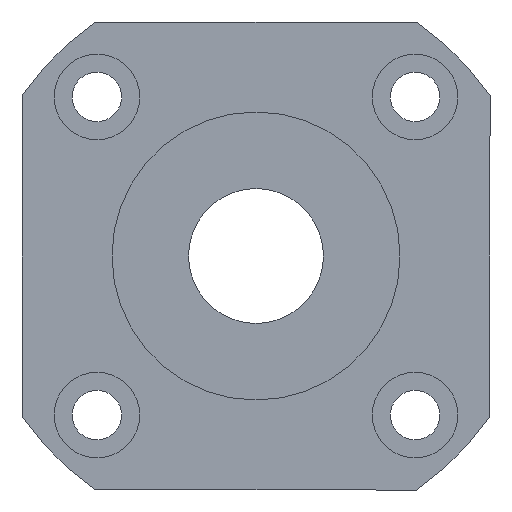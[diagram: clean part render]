
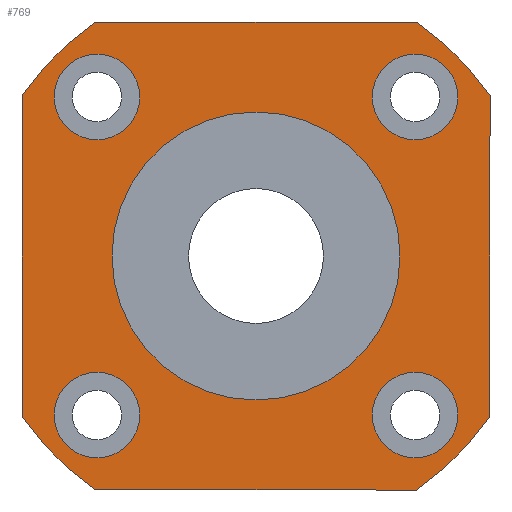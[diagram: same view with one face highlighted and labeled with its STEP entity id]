
A CAD part, left-side view. The second image highlights one B-rep face of the part: STEP entity #769.
In plain terms, the highlighted planar face has unit normal (-1, 0, 0).
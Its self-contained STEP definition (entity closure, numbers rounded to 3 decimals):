
#165=CARTESIAN_POINT('',(0.0,17.678,12.928));
#166=VERTEX_POINT('',#165);
#167=CARTESIAN_POINT('',(0.0,17.678,17.678));
#168=DIRECTION('',(1.0,0.0,0.0));
#169=DIRECTION('',(0.0,0.0,-1.0));
#170=AXIS2_PLACEMENT_3D('',#167,#168,#169);
#171=CIRCLE('',#170,4.75);
#172=EDGE_CURVE('',#166,#166,#171,.T.);
#233=CARTESIAN_POINT('',(0.0,12.928,-17.678));
#234=VERTEX_POINT('',#233);
#235=CARTESIAN_POINT('',(0.0,17.678,-17.678));
#236=DIRECTION('',(1.0,0.0,0.0));
#237=DIRECTION('',(0.0,-1.0,0.0));
#238=AXIS2_PLACEMENT_3D('',#235,#236,#237);
#239=CIRCLE('',#238,4.75);
#240=EDGE_CURVE('',#234,#234,#239,.T.);
#301=CARTESIAN_POINT('',(0.0,-17.678,-12.928));
#302=VERTEX_POINT('',#301);
#303=CARTESIAN_POINT('',(0.0,-17.678,-17.678));
#304=DIRECTION('',(1.0,0.0,0.0));
#305=DIRECTION('',(0.0,0.0,1.0));
#306=AXIS2_PLACEMENT_3D('',#303,#304,#305);
#307=CIRCLE('',#306,4.75);
#308=EDGE_CURVE('',#302,#302,#307,.T.);
#369=CARTESIAN_POINT('',(0.0,-12.928,17.678));
#370=VERTEX_POINT('',#369);
#371=CARTESIAN_POINT('',(0.0,-17.678,17.678));
#372=DIRECTION('',(1.0,0.0,0.0));
#373=DIRECTION('',(0.0,1.0,0.0));
#374=AXIS2_PLACEMENT_3D('',#371,#372,#373);
#375=CIRCLE('',#374,4.75);
#376=EDGE_CURVE('',#370,#370,#375,.T.);
#529=CARTESIAN_POINT('',(0.0,17.783,-26.));
#530=VERTEX_POINT('',#529);
#537=CARTESIAN_POINT('',(0.0,26.,-17.783));
#538=VERTEX_POINT('',#537);
#539=CARTESIAN_POINT('',(0.0,0.,0.));
#540=DIRECTION('',(1.0,0.0,0.0));
#541=DIRECTION('',(0.0,1.0,0.0));
#542=AXIS2_PLACEMENT_3D('',#539,#540,#541);
#543=CIRCLE('',#542,31.5);
#544=EDGE_CURVE('',#530,#538,#543,.T.);
#561=CARTESIAN_POINT('',(0.0,-17.783,-26.));
#562=VERTEX_POINT('',#561);
#569=CARTESIAN_POINT('',(0.0,-17.783,-26.));
#570=DIRECTION('',(0.0,1.0,0.0));
#571=VECTOR('',#570,35.567);
#572=LINE('',#569,#571);
#573=EDGE_CURVE('',#562,#530,#572,.T.);
#585=CARTESIAN_POINT('',(0.0,-26.,-17.783));
#586=VERTEX_POINT('',#585);
#593=CARTESIAN_POINT('',(0.0,0.,0.));
#594=DIRECTION('',(1.0,0.0,0.0));
#595=DIRECTION('',(0.0,1.0,0.0));
#596=AXIS2_PLACEMENT_3D('',#593,#594,#595);
#597=CIRCLE('',#596,31.5);
#598=EDGE_CURVE('',#586,#562,#597,.T.);
#610=CARTESIAN_POINT('',(0.0,-26.,17.783));
#611=VERTEX_POINT('',#610);
#618=CARTESIAN_POINT('',(0.0,-26.,17.783));
#619=DIRECTION('',(0.0,0.0,-1.0));
#620=VECTOR('',#619,35.567);
#621=LINE('',#618,#620);
#622=EDGE_CURVE('',#611,#586,#621,.T.);
#636=CARTESIAN_POINT('',(0.0,16.,0.));
#637=VERTEX_POINT('',#636);
#638=CARTESIAN_POINT('',(0.0,0.,0.));
#639=DIRECTION('',(1.0,0.0,0.0));
#640=DIRECTION('',(0.0,-1.0,0.0));
#641=AXIS2_PLACEMENT_3D('',#638,#639,#640);
#642=CIRCLE('',#641,16.0);
#643=EDGE_CURVE('',#637,#637,#642,.T.);
#654=CARTESIAN_POINT('',(0.0,-17.783,26.));
#655=VERTEX_POINT('',#654);
#662=CARTESIAN_POINT('',(0.0,0.,0.));
#663=DIRECTION('',(1.0,0.0,0.0));
#664=DIRECTION('',(0.0,1.0,0.0));
#665=AXIS2_PLACEMENT_3D('',#662,#663,#664);
#666=CIRCLE('',#665,31.5);
#667=EDGE_CURVE('',#655,#611,#666,.T.);
#679=CARTESIAN_POINT('',(0.0,17.783,26.));
#680=VERTEX_POINT('',#679);
#687=CARTESIAN_POINT('',(0.0,17.783,26.));
#688=DIRECTION('',(0.0,-1.0,0.0));
#689=VECTOR('',#688,35.567);
#690=LINE('',#687,#689);
#691=EDGE_CURVE('',#680,#655,#690,.T.);
#703=CARTESIAN_POINT('',(0.0,26.,17.783));
#704=VERTEX_POINT('',#703);
#711=CARTESIAN_POINT('',(0.0,0.,0.));
#712=DIRECTION('',(1.0,0.0,0.0));
#713=DIRECTION('',(0.0,1.0,0.0));
#714=AXIS2_PLACEMENT_3D('',#711,#712,#713);
#715=CIRCLE('',#714,31.5);
#716=EDGE_CURVE('',#704,#680,#715,.T.);
#729=CARTESIAN_POINT('',(0.0,26.,-17.783));
#730=DIRECTION('',(0.0,0.0,1.0));
#731=VECTOR('',#730,35.567);
#732=LINE('',#729,#731);
#733=EDGE_CURVE('',#538,#704,#732,.T.);
#739=CARTESIAN_POINT('',(0.0,0.,0.));
#740=DIRECTION('',(1.0,0.0,0.0));
#741=DIRECTION('',(0.0,0.0,-1.0));
#742=AXIS2_PLACEMENT_3D('',#739,#740,#741);
#743=PLANE('',#742);
#744=ORIENTED_EDGE('',*,*,#598,.F.);
#745=ORIENTED_EDGE('',*,*,#622,.F.);
#746=ORIENTED_EDGE('',*,*,#667,.F.);
#747=ORIENTED_EDGE('',*,*,#691,.F.);
#748=ORIENTED_EDGE('',*,*,#716,.F.);
#749=ORIENTED_EDGE('',*,*,#733,.F.);
#750=ORIENTED_EDGE('',*,*,#544,.F.);
#751=ORIENTED_EDGE('',*,*,#573,.F.);
#752=EDGE_LOOP('',(#744,#745,#746,#747,#748,#749,#750,#751));
#753=FACE_OUTER_BOUND('',#752,.T.);
#754=ORIENTED_EDGE('',*,*,#172,.T.);
#755=EDGE_LOOP('',(#754));
#756=FACE_BOUND('',#755,.T.);
#757=ORIENTED_EDGE('',*,*,#240,.T.);
#758=EDGE_LOOP('',(#757));
#759=FACE_BOUND('',#758,.T.);
#760=ORIENTED_EDGE('',*,*,#308,.T.);
#761=EDGE_LOOP('',(#760));
#762=FACE_BOUND('',#761,.T.);
#763=ORIENTED_EDGE('',*,*,#376,.T.);
#764=EDGE_LOOP('',(#763));
#765=FACE_BOUND('',#764,.T.);
#766=ORIENTED_EDGE('',*,*,#643,.T.);
#767=EDGE_LOOP('',(#766));
#768=FACE_BOUND('',#767,.T.);
#769=ADVANCED_FACE('',(#753,#756,#759,#762,#765,#768),#743,.F.);
